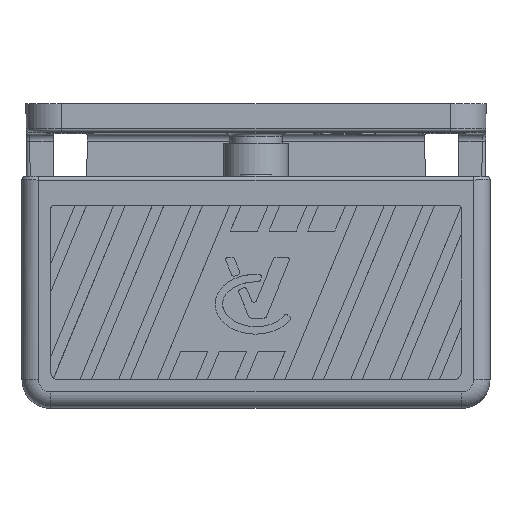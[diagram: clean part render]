
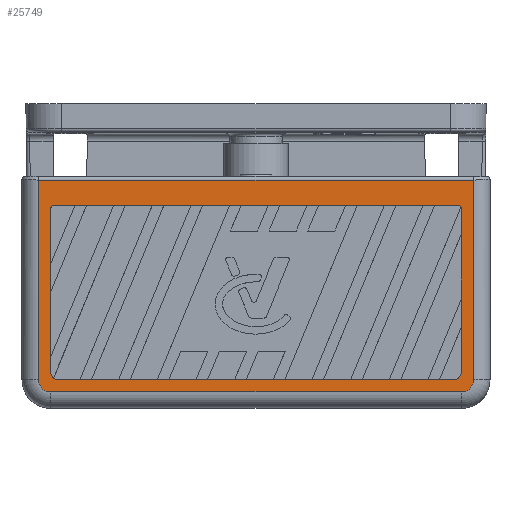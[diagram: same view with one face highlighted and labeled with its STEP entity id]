
A CAD part, front view. The second image highlights one B-rep face of the part: STEP entity #25749.
In plain terms, the highlighted planar face has unit normal (0, -1, 0) as drawn and (0, 0, 1) by its records, which use the part's own axes.
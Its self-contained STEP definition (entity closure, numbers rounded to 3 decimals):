
#15 = VERTEX_POINT ( 'NONE', #10983 ) ;
#96 = CARTESIAN_POINT ( 'NONE',  ( -28.719, -12.012, 3.5 ) ) ;
#228 = DIRECTION ( 'NONE',  ( 0., 0., -1. ) ) ;
#437 = CIRCLE ( 'NONE', #3170, 1.689 ) ;
#628 = CARTESIAN_POINT ( 'NONE',  ( 30.439, 12.25, 3.5 ) ) ;
#978 = CARTESIAN_POINT ( 'NONE',  ( -30.439, 12.25, 3.5 ) ) ;
#1838 = EDGE_CURVE ( 'NONE', #3937, #26631, #31211, .T. ) ;
#2093 = DIRECTION ( 'NONE',  ( -1., 0., 0. ) ) ;
#2210 = CARTESIAN_POINT ( 'NONE',  ( 28.719, -11.719, 3.5 ) ) ;
#3093 = EDGE_CURVE ( 'NONE', #5205, #13471, #28137, .T. ) ;
#3170 = AXIS2_PLACEMENT_3D ( 'NONE', #19312, #16746, #21716 ) ;
#3737 = CARTESIAN_POINT ( 'NONE',  ( -27.719, 12.219, 3.5 ) ) ;
#3937 = VERTEX_POINT ( 'NONE', #8968 ) ;
#4359 = CARTESIAN_POINT ( 'NONE',  ( 28.719, 11.219, 3.5 ) ) ;
#4534 = ORIENTED_EDGE ( 'NONE', *, *, #30745, .T. ) ;
#5205 = VERTEX_POINT ( 'NONE', #20316 ) ;
#5307 = LINE ( 'NONE', #13004, #30959 ) ;
#5392 = CARTESIAN_POINT ( 'NONE',  ( -28.719, -11.719, 3.5 ) ) ;
#6126 = CARTESIAN_POINT ( 'NONE',  ( -28.719, 11.805, 3.5 ) ) ;
#6268 = VECTOR ( 'NONE', #29550, 1000. ) ;
#6576 = VECTOR ( 'NONE', #17523, 1000. ) ;
#6944 = VERTEX_POINT ( 'NONE', #31844 ) ;
#7166 = CARTESIAN_POINT ( 'NONE',  ( 28.719, -12.012, 3.5 ) ) ;
#7239 = EDGE_CURVE ( 'NONE', #5205, #15, #25100, .T. ) ;
#7763 = DIRECTION ( 'NONE',  ( -1., 0., 0. ) ) ;
#8091 = VERTEX_POINT ( 'NONE', #30141 ) ;
#8357 = EDGE_CURVE ( 'NONE', #26007, #31056, #32134, .T. ) ;
#8876 = EDGE_CURVE ( 'NONE', #8091, #13471, #21417, .T. ) ;
#8968 = CARTESIAN_POINT ( 'NONE',  ( 28.75, 13.939, 3.5 ) ) ;
#10256 = CARTESIAN_POINT ( 'NONE',  ( -30.439, 12.25, 3.5 ) ) ;
#10354 = CARTESIAN_POINT ( 'NONE',  ( -30.439, -15.724, 3.5 ) ) ;
#10564 = CARTESIAN_POINT ( 'NONE',  ( -28.75, 12.25, 3.5 ) ) ;
#10709 = LINE ( 'NONE', #21002, #31250 ) ;
#10821 = EDGE_CURVE ( 'NONE', #6944, #27619, #11385, .T. ) ;
#10892 = CARTESIAN_POINT ( 'NONE',  ( 30.439, 12.25, 3.5 ) ) ;
#10983 = CARTESIAN_POINT ( 'NONE',  ( 28.219, -12.219, 3.5 ) ) ;
#11385 = LINE ( 'NONE', #628, #6268 ) ;
#11681 = EDGE_CURVE ( 'NONE', #27619, #3937, #437, .T. ) ;
#11907 = CARTESIAN_POINT ( 'NONE',  ( -28.75, 13.939, 3.5 ) ) ;
#12158 = LINE ( 'NONE', #17462, #12543 ) ;
#12282 = VERTEX_POINT ( 'NONE', #24739 ) ;
#12342 = CIRCLE ( 'NONE', #16716, 1.689 ) ;
#12413 = CARTESIAN_POINT ( 'NONE',  ( -27.719, 12.219, 3.5 ) ) ;
#12543 = VECTOR ( 'NONE', #27909, 1000. ) ;
#13004 = CARTESIAN_POINT ( 'NONE',  ( -28.719, 12.219, 3.5 ) ) ;
#13225 = FACE_OUTER_BOUND ( 'NONE', #32481, .T. ) ;
#13471 = VERTEX_POINT ( 'NONE', #21209 ) ;
#13540 =( BOUNDED_CURVE ( )  B_SPLINE_CURVE ( 3, ( #29762, #6126, #29938, #3737 ),
 .UNSPECIFIED., .F., .T. ) 
 B_SPLINE_CURVE_WITH_KNOTS ( ( 4, 4 ),
 ( 2.356, 3.927 ),
 .UNSPECIFIED. ) 
 CURVE ( )  GEOMETRIC_REPRESENTATION_ITEM ( )  RATIONAL_B_SPLINE_CURVE ( ( 1., 0.805, 0.805, 1. ) ) 
 REPRESENTATION_ITEM ( '' )  );
#13551 = PLANE ( 'NONE',  #26950 ) ;
#13812 = DIRECTION ( 'NONE',  ( 0., 0., 1. ) ) ;
#14617 = CARTESIAN_POINT ( 'NONE',  ( 27.719, 12.219, 3.5 ) ) ;
#14865 = CARTESIAN_POINT ( 'NONE',  ( 28.512, -12.219, 3.5 ) ) ;
#15747 = DIRECTION ( 'NONE',  ( 0., -1., 0. ) ) ;
#15884 = VERTEX_POINT ( 'NONE', #32020 ) ;
#16550 = DIRECTION ( 'NONE',  ( 0., -1., 0. ) ) ;
#16615 = ORIENTED_EDGE ( 'NONE', *, *, #8876, .T. ) ;
#16716 = AXIS2_PLACEMENT_3D ( 'NONE', #10564, #13812, #29243 ) ;
#16742 = ORIENTED_EDGE ( 'NONE', *, *, #20077, .F. ) ;
#16746 = DIRECTION ( 'NONE',  ( 0., 0., 1. ) ) ;
#17462 = CARTESIAN_POINT ( 'NONE',  ( -28.719, -12.219, 3.5 ) ) ;
#17482 = ORIENTED_EDGE ( 'NONE', *, *, #32160, .T. ) ;
#17523 = DIRECTION ( 'NONE',  ( 0., 1., 0. ) ) ;
#17695 = CARTESIAN_POINT ( 'NONE',  ( 28.719, -12.219, 3.5 ) ) ;
#17859 = CARTESIAN_POINT ( 'NONE',  ( -28.75, 13.939, 3.5 ) ) ;
#18238 = CARTESIAN_POINT ( 'NONE',  ( -28.219, -12.219, 3.5 ) ) ;
#18596 = ORIENTED_EDGE ( 'NONE', *, *, #1838, .T. ) ;
#19312 = CARTESIAN_POINT ( 'NONE',  ( 28.75, 12.25, 3.5 ) ) ;
#19726 = ORIENTED_EDGE ( 'NONE', *, *, #29399, .T. ) ;
#19765 = CARTESIAN_POINT ( 'NONE',  ( 28.305, 12.219, 3.5 ) ) ;
#19820 = ORIENTED_EDGE ( 'NONE', *, *, #8357, .T. ) ;
#20077 = EDGE_CURVE ( 'NONE', #8091, #24029, #25531, .T. ) ;
#20316 = CARTESIAN_POINT ( 'NONE',  ( 28.719, -11.719, 3.5 ) ) ;
#21002 = CARTESIAN_POINT ( 'NONE',  ( -28.75, -15.724, 3.5 ) ) ;
#21209 = CARTESIAN_POINT ( 'NONE',  ( 28.719, 11.219, 3.5 ) ) ;
#21417 =( BOUNDED_CURVE ( )  B_SPLINE_CURVE ( 3, ( #14617, #19765, #25067, #4359 ),
 .UNSPECIFIED., .F., .T. ) 
 B_SPLINE_CURVE_WITH_KNOTS ( ( 4, 4 ),
 ( 2.356, 3.927 ),
 .UNSPECIFIED. ) 
 CURVE ( )  GEOMETRIC_REPRESENTATION_ITEM ( )  RATIONAL_B_SPLINE_CURVE ( ( 1., 0.805, 0.805, 1. ) ) 
 REPRESENTATION_ITEM ( '' )  );
#21716 = DIRECTION ( 'NONE',  ( -1., 0., 0. ) ) ;
#21830 = ORIENTED_EDGE ( 'NONE', *, *, #7239, .T. ) ;
#22646 = VERTEX_POINT ( 'NONE', #25504 ) ;
#22667 = EDGE_CURVE ( 'NONE', #22646, #15, #12158, .T. ) ;
#23553 = CARTESIAN_POINT ( 'NONE',  ( -28.512, -12.219, 3.5 ) ) ;
#23694 = FACE_BOUND ( 'NONE', #27384, .T. ) ;
#23855 = DIRECTION ( 'NONE',  ( -1., 0., 0. ) ) ;
#24029 = VERTEX_POINT ( 'NONE', #12413 ) ;
#24739 = CARTESIAN_POINT ( 'NONE',  ( -28.719, 11.219, 3.5 ) ) ;
#25067 = CARTESIAN_POINT ( 'NONE',  ( 28.719, 11.805, 3.5 ) ) ;
#25100 =( BOUNDED_CURVE ( )  B_SPLINE_CURVE ( 3, ( #2210, #7166, #14865, #25314 ),
 .UNSPECIFIED., .F., .T. ) 
 B_SPLINE_CURVE_WITH_KNOTS ( ( 4, 4 ),
 ( 2.356, 3.927 ),
 .UNSPECIFIED. ) 
 CURVE ( )  GEOMETRIC_REPRESENTATION_ITEM ( )  RATIONAL_B_SPLINE_CURVE ( ( 1., 0.805, 0.805, 1. ) ) 
 REPRESENTATION_ITEM ( '' )  );
#25314 = CARTESIAN_POINT ( 'NONE',  ( 28.219, -12.219, 3.5 ) ) ;
#25504 = CARTESIAN_POINT ( 'NONE',  ( -28.219, -12.219, 3.5 ) ) ;
#25531 = LINE ( 'NONE', #30357, #29971 ) ;
#25749 = ADVANCED_FACE ( 'NONE', ( #13225, #23694 ), #13551, .F. ) ;
#26007 = VERTEX_POINT ( 'NONE', #10256 ) ;
#26278 = VECTOR ( 'NONE', #7763, 1000. ) ;
#26631 = VERTEX_POINT ( 'NONE', #11907 ) ;
#26650 = DIRECTION ( 'NONE',  ( 1., 0., 0. ) ) ;
#26950 = AXIS2_PLACEMENT_3D ( 'NONE', #28984, #228, #23855 ) ;
#27083 = ORIENTED_EDGE ( 'NONE', *, *, #10821, .T. ) ;
#27384 = EDGE_LOOP ( 'NONE', ( #28029, #30806, #16742, #16615, #28624, #21830, #30293, #19726 ) ) ;
#27619 = VERTEX_POINT ( 'NONE', #10892 ) ;
#27909 = DIRECTION ( 'NONE',  ( 1., 0., 0. ) ) ;
#28029 = ORIENTED_EDGE ( 'NONE', *, *, #28935, .F. ) ;
#28137 = LINE ( 'NONE', #17695, #6576 ) ;
#28624 = ORIENTED_EDGE ( 'NONE', *, *, #3093, .F. ) ;
#28935 = EDGE_CURVE ( 'NONE', #12282, #15884, #5307, .T. ) ;
#28984 = CARTESIAN_POINT ( 'NONE',  ( -28.75, 12.25, 3.5 ) ) ;
#29243 = DIRECTION ( 'NONE',  ( -1., 0., 0. ) ) ;
#29319 = ORIENTED_EDGE ( 'NONE', *, *, #11681, .T. ) ;
#29399 = EDGE_CURVE ( 'NONE', #22646, #15884, #31998, .T. ) ;
#29550 = DIRECTION ( 'NONE',  ( 0., 1., 0. ) ) ;
#29562 = VECTOR ( 'NONE', #16550, 1000. ) ;
#29762 = CARTESIAN_POINT ( 'NONE',  ( -28.719, 11.219, 3.5 ) ) ;
#29938 = CARTESIAN_POINT ( 'NONE',  ( -28.305, 12.219, 3.5 ) ) ;
#29971 = VECTOR ( 'NONE', #2093, 1000. ) ;
#30141 = CARTESIAN_POINT ( 'NONE',  ( 27.719, 12.219, 3.5 ) ) ;
#30293 = ORIENTED_EDGE ( 'NONE', *, *, #22667, .F. ) ;
#30357 = CARTESIAN_POINT ( 'NONE',  ( 28.719, 12.219, 3.5 ) ) ;
#30745 = EDGE_CURVE ( 'NONE', #26631, #26007, #12342, .T. ) ;
#30806 = ORIENTED_EDGE ( 'NONE', *, *, #33215, .T. ) ;
#30959 = VECTOR ( 'NONE', #15747, 1000. ) ;
#31056 = VERTEX_POINT ( 'NONE', #10354 ) ;
#31211 = LINE ( 'NONE', #17859, #26278 ) ;
#31250 = VECTOR ( 'NONE', #26650, 1000. ) ;
#31844 = CARTESIAN_POINT ( 'NONE',  ( 30.439, -15.724, 3.5 ) ) ;
#31998 =( BOUNDED_CURVE ( )  B_SPLINE_CURVE ( 3, ( #18238, #23553, #96, #5392 ),
 .UNSPECIFIED., .F., .T. ) 
 B_SPLINE_CURVE_WITH_KNOTS ( ( 4, 4 ),
 ( 2.356, 3.927 ),
 .UNSPECIFIED. ) 
 CURVE ( )  GEOMETRIC_REPRESENTATION_ITEM ( )  RATIONAL_B_SPLINE_CURVE ( ( 1., 0.805, 0.805, 1. ) ) 
 REPRESENTATION_ITEM ( '' )  );
#32020 = CARTESIAN_POINT ( 'NONE',  ( -28.719, -11.719, 3.5 ) ) ;
#32134 = LINE ( 'NONE', #978, #29562 ) ;
#32160 = EDGE_CURVE ( 'NONE', #31056, #6944, #10709, .T. ) ;
#32481 = EDGE_LOOP ( 'NONE', ( #19820, #17482, #27083, #29319, #18596, #4534 ) ) ;
#33215 = EDGE_CURVE ( 'NONE', #12282, #24029, #13540, .T. ) ;
